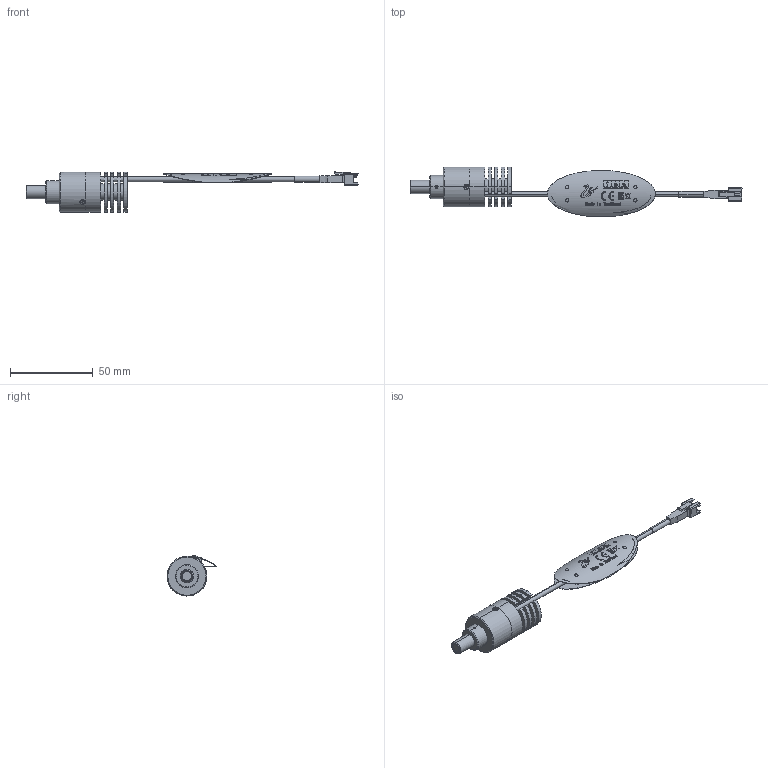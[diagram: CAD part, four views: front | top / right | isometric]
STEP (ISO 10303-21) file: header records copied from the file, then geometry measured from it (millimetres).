
FILE_DESCRIPTION(('STEP AP214'),'1');
FILE_NAME('VSP-A07-2P_DRAWING_3D.step','2024-03-04T03:03:12',(' '),(' '),'Spatial InterOp 3D',' ',' ');
FILE_SCHEMA(('AUTOMOTIVE_DESIGN { 1 0 10303 214 1 1 1 1 }'));
Length unit declared in the file: millimetre
Products named in the file (9): Base_3; ACRYL ROD_1; socket set screw cone point_iso_ISO 4027 - M2 x 3-S_1; 2P_2; MXB0164_3; MXB4508_5; CAP_1; CABEL TAG (VS)
Assembly tree (11 placements, depth 2):
  (unnamed)
    Base_3
    ACRYL ROD_1
    socket set screw cone point_iso_ISO 4027 - M2 x 3-S_1
    2P_2
    MXB0164_3  x2
    MXB4508_5  x3
    CAP_1
    CABEL TAG (VS)
Bounding box: 200 x 30.09 x 24.17 mm (x, y, z)
Volume: 17133.4 mm3; surface area: 18796 mm2
Topology: 37 solids, 38 shells, 510 faces, 1495 edges, 1098 vertices
Faces by surface type: plane 223, cylinder 208, cone 56, bspline 12, torus 11
Entity records: 22523 total; most frequent: CARTESIAN_POINT 7166, ORIENTED_EDGE 2670, DIRECTION 2161, EDGE_CURVE 1335, VERTEX_POINT 1004, AXIS2_PLACEMENT_3D 757, LINE 647, VECTOR 647
